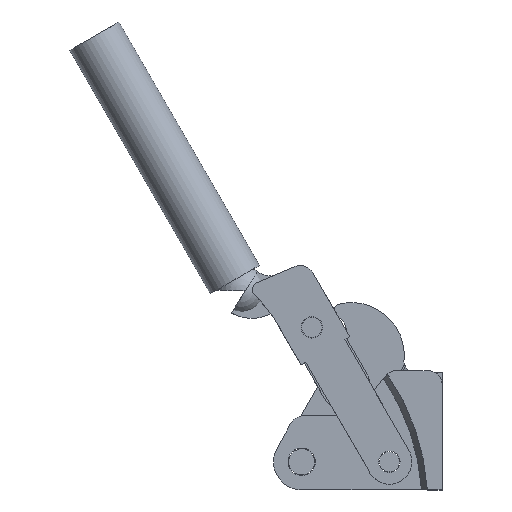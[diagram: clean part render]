
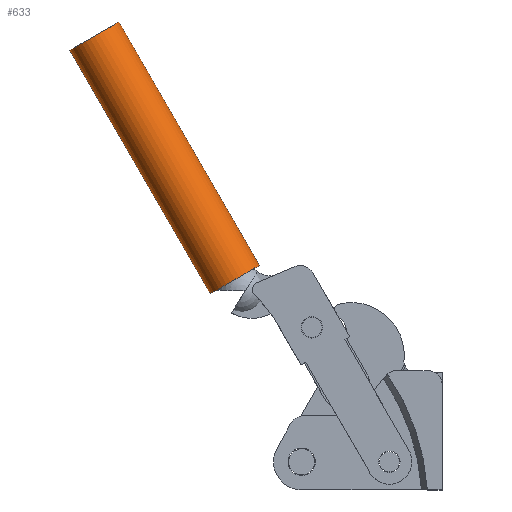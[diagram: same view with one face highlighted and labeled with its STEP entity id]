
A CAD part, top view. The second image highlights one B-rep face of the part: STEP entity #633.
In plain terms, the highlighted cylindrical face has radius 12.827 mm (diameter 25.654 mm), a partial arc.
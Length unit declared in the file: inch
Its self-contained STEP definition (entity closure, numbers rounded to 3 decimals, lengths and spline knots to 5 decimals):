
#633 = ADVANCED_FACE( '', ( #1076 ), #1077, .T. );
#1076 = FACE_OUTER_BOUND( '', #1592, .T. );
#1077 = CYLINDRICAL_SURFACE( '', #1593, 0.505 );
#1592 = EDGE_LOOP( '', ( #3152, #3153, #3154, #3155 ) );
#1593 = AXIS2_PLACEMENT_3D( '', #3156, #3157, #3158 );
#3152 = ORIENTED_EDGE( '', *, *, #4154, .F. );
#3153 = ORIENTED_EDGE( '', *, *, #4155, .T. );
#3154 = ORIENTED_EDGE( '', *, *, #4156, .F. );
#3155 = ORIENTED_EDGE( '', *, *, #4157, .F. );
#3156 = CARTESIAN_POINT( '', ( -6.31209, 8.28819, 0. ) );
#3157 = DIRECTION( '', ( 0.5, -0.866, 0. ) );
#3158 = DIRECTION( '', ( 0.866, 0.5, 0. ) );
#4154 = EDGE_CURVE( '', #5079, #5080, #5081, .T. );
#4155 = EDGE_CURVE( '', #5079, #5082, #5083, .T. );
#4156 = EDGE_CURVE( '', #5084, #5082, #5085, .T. );
#4157 = EDGE_CURVE( '', #5080, #5084, #5086, .T. );
#5079 = VERTEX_POINT( '', #6538 );
#5080 = VERTEX_POINT( '', #6539 );
#5081 = LINE( '', #6540, #6541 );
#5082 = VERTEX_POINT( '', #6542 );
#5083 = CIRCLE( '', #6543, 0.505 );
#5084 = VERTEX_POINT( '', #6544 );
#5085 = LINE( '', #6545, #6546 );
#5086 = CIRCLE( '', #6547, 0.505 );
#6538 = CARTESIAN_POINT( '', ( -5.74974, 8.32419, 0. ) );
#6539 = CARTESIAN_POINT( '', ( -3.24974, 3.99406, 0. ) );
#6540 = CARTESIAN_POINT( '', ( -5.87474, 8.54069, 0. ) );
#6541 = VECTOR( '', #7745, 1. );
#6542 = CARTESIAN_POINT( '', ( -6.62443, 7.81919, 0. ) );
#6543 = AXIS2_PLACEMENT_3D( '', #7746, #7747, #7748 );
#6544 = CARTESIAN_POINT( '', ( -4.12443, 3.48906, 0. ) );
#6545 = CARTESIAN_POINT( '', ( -6.74943, 8.03569, 0. ) );
#6546 = VECTOR( '', #7749, 1. );
#6547 = AXIS2_PLACEMENT_3D( '', #7750, #7751, #7752 );
#7745 = DIRECTION( '', ( 0.5, -0.866, 0. ) );
#7746 = CARTESIAN_POINT( '', ( -6.18709, 8.07169, 0. ) );
#7747 = DIRECTION( '', ( 0.5, -0.866, 0. ) );
#7748 = DIRECTION( '', ( 0.866, 0.5, 0. ) );
#7749 = DIRECTION( '', ( -0.5, 0.866, 0. ) );
#7750 = CARTESIAN_POINT( '', ( -3.68709, 3.74156, 0. ) );
#7751 = DIRECTION( '', ( 0.5, -0.866, 0. ) );
#7752 = DIRECTION( '', ( 0.866, 0.5, 0. ) );
